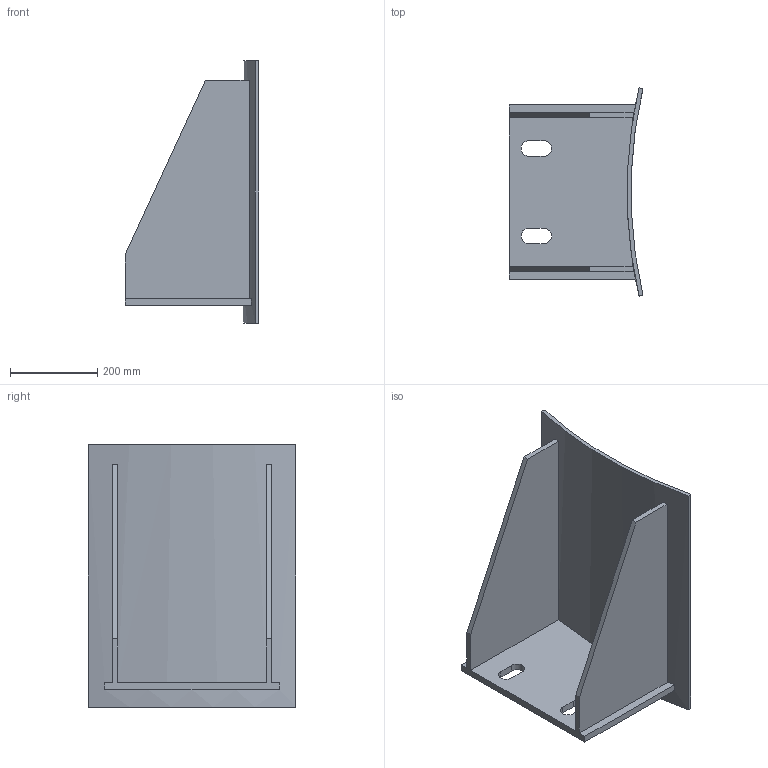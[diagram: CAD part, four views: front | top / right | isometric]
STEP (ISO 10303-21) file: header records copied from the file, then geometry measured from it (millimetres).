
FILE_DESCRIPTION(/* description */ (''),/* implementation_level */ '2;1');
FILE_NAME(/* name */ 'C:\Users\D\Documents\Inventor\HP\JPI\竪型容器用ラグサポート\軽荷重用ラグサポート Light-duty lug support\ld-lug-support-d2050.stp',/* time_stamp */ '2026-02-05T16:56:01+09:00',/* author */ ('D'),/* organization */ (''),/* preprocessor_version */ 'ST-DEVELOPER v18',/* originating_system */ 'Autodesk Inventor 2020',/* authorisation */ '');
FILE_SCHEMA (('AUTOMOTIVE_DESIGN { 1 0 10303 214 3 1 1 }'));
Length unit declared in the file: millimetre
Products named in the file (1): light-duty lug support
Bounding box: 306.25 x 475.78 x 600 mm (x, y, z)
Volume: 6804387.7 mm3; surface area: 1261578 mm2
Topology: 1 solids, 1 shells, 31 faces, 80 edges, 52 vertices
Faces by surface type: plane 25, cylinder 6
Entity records: 1001 total; most frequent: CARTESIAN_POINT 166, ORIENTED_EDGE 164, DIRECTION 162, EDGE_CURVE 82, LINE 66, VECTOR 66, VERTEX_POINT 52, AXIS2_PLACEMENT_3D 48
